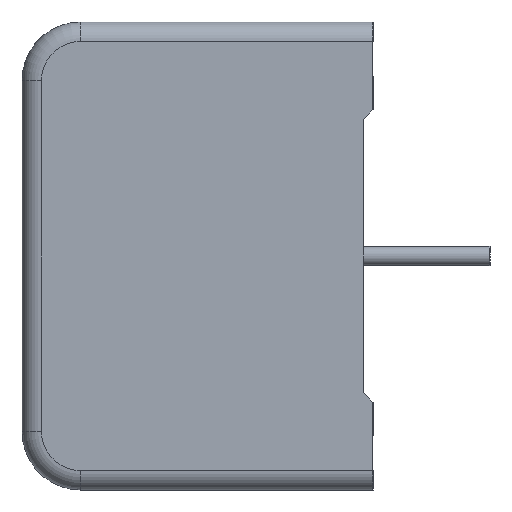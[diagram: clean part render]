
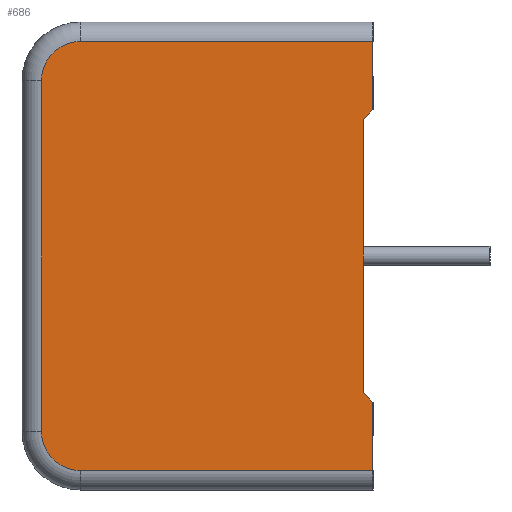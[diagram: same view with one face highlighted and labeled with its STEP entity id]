
A CAD part, left-side view. The second image highlights one B-rep face of the part: STEP entity #686.
In plain terms, the highlighted planar face has unit normal (-1, 0, 0).
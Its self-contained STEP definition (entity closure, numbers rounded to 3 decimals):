
#358 = FACE_OUTER_BOUND ( 'NONE', #2310, .T. ) ;
#416 = DIRECTION ( 'NONE',  ( 0., -0.707, 0.707 ) ) ;
#490 = AXIS2_PLACEMENT_3D ( 'NONE', #1006, #3319, #1399 ) ;
#565 = CIRCLE ( 'NONE', #490, 2. ) ;
#649 = CARTESIAN_POINT ( 'NONE',  ( -21., 0., -12. ) ) ;
#657 = CARTESIAN_POINT ( 'NONE',  ( -21., 0.5, 7. ) ) ;
#686 = ADVANCED_FACE ( 'NONE', ( #358 ), #3828, .F. ) ;
#830 = CARTESIAN_POINT ( 'NONE',  ( -21., 15., 11. ) ) ;
#881 = CARTESIAN_POINT ( 'NONE',  ( -21., 0., -12. ) ) ;
#927 = ORIENTED_EDGE ( 'NONE', *, *, #2495, .T. ) ;
#1001 = ORIENTED_EDGE ( 'NONE', *, *, #3577, .T. ) ;
#1005 = ORIENTED_EDGE ( 'NONE', *, *, #3381, .T. ) ;
#1006 = CARTESIAN_POINT ( 'NONE',  ( -21., 15., -9. ) ) ;
#1021 = LINE ( 'NONE', #2329, #2053 ) ;
#1108 = LINE ( 'NONE', #649, #2973 ) ;
#1122 = VERTEX_POINT ( 'NONE', #2710 ) ;
#1302 = ORIENTED_EDGE ( 'NONE', *, *, #3195, .T. ) ;
#1387 = AXIS2_PLACEMENT_3D ( 'NONE', #2159, #4236, #2509 ) ;
#1399 = DIRECTION ( 'NONE',  ( 0., 0., -1. ) ) ;
#1433 = VERTEX_POINT ( 'NONE', #657 ) ;
#1452 = LINE ( 'NONE', #2067, #3167 ) ;
#1556 = CARTESIAN_POINT ( 'NONE',  ( -21., 18., 11. ) ) ;
#1576 = ORIENTED_EDGE ( 'NONE', *, *, #2999, .T. ) ;
#1585 = CARTESIAN_POINT ( 'NONE',  ( -21., 0., 7.5 ) ) ;
#1717 = VERTEX_POINT ( 'NONE', #1585 ) ;
#1778 = ORIENTED_EDGE ( 'NONE', *, *, #2809, .T. ) ;
#1818 = VERTEX_POINT ( 'NONE', #3215 ) ;
#1865 = VERTEX_POINT ( 'NONE', #830 ) ;
#1871 = ORIENTED_EDGE ( 'NONE', *, *, #2586, .T. ) ;
#1893 = EDGE_CURVE ( 'NONE', #2724, #2643, #3000, .T. ) ;
#1997 = ORIENTED_EDGE ( 'NONE', *, *, #2357, .T. ) ;
#2053 = VECTOR ( 'NONE', #416, 1000. ) ;
#2067 = CARTESIAN_POINT ( 'NONE',  ( -21., 0.5, -7. ) ) ;
#2084 = VECTOR ( 'NONE', #3933, 1000. ) ;
#2117 = EDGE_CURVE ( 'NONE', #2321, #2724, #565, .T. ) ;
#2139 = VERTEX_POINT ( 'NONE', #3591 ) ;
#2152 = ORIENTED_EDGE ( 'NONE', *, *, #2117, .T. ) ;
#2159 = CARTESIAN_POINT ( 'NONE',  ( -21., 15., 9. ) ) ;
#2190 = LINE ( 'NONE', #3659, #2084 ) ;
#2191 = CARTESIAN_POINT ( 'NONE',  ( -21., 15., -11. ) ) ;
#2202 = ORIENTED_EDGE ( 'NONE', *, *, #1893, .T. ) ;
#2247 = AXIS2_PLACEMENT_3D ( 'NONE', #3792, #3789, #3777 ) ;
#2273 = CARTESIAN_POINT ( 'NONE',  ( -21., 18., -11. ) ) ;
#2310 = EDGE_LOOP ( 'NONE', ( #927, #1001, #1005, #1302, #1576, #1778, #1871, #1997, #2152, #2202 ) ) ;
#2321 = VERTEX_POINT ( 'NONE', #2442 ) ;
#2329 = CARTESIAN_POINT ( 'NONE',  ( -21., 0., 7.5 ) ) ;
#2357 = EDGE_CURVE ( 'NONE', #2139, #2321, #2190, .T. ) ;
#2379 = CARTESIAN_POINT ( 'NONE',  ( -21., 0.5, 7. ) ) ;
#2418 = DIRECTION ( 'NONE',  ( 0., 0.707, 0.707 ) ) ;
#2435 = VECTOR ( 'NONE', #3464, 1000. ) ;
#2442 = CARTESIAN_POINT ( 'NONE',  ( -21., 17., -9. ) ) ;
#2485 = LINE ( 'NONE', #1556, #2435 ) ;
#2495 = EDGE_CURVE ( 'NONE', #2643, #3537, #1108, .T. ) ;
#2509 = DIRECTION ( 'NONE',  ( 0., 0., -1. ) ) ;
#2586 = EDGE_CURVE ( 'NONE', #1865, #2139, #3869, .T. ) ;
#2643 = VERTEX_POINT ( 'NONE', #2853 ) ;
#2710 = CARTESIAN_POINT ( 'NONE',  ( -21., 0.5, -7. ) ) ;
#2713 = DIRECTION ( 'NONE',  ( 0., 0., 1. ) ) ;
#2724 = VERTEX_POINT ( 'NONE', #2191 ) ;
#2809 = EDGE_CURVE ( 'NONE', #1818, #1865, #2485, .T. ) ;
#2853 = CARTESIAN_POINT ( 'NONE',  ( -21., 0., -11. ) ) ;
#2973 = VECTOR ( 'NONE', #3945, 1000. ) ;
#2999 = EDGE_CURVE ( 'NONE', #1717, #1818, #4318, .T. ) ;
#3000 = LINE ( 'NONE', #2273, #4332 ) ;
#3124 = VECTOR ( 'NONE', #2713, 1000. ) ;
#3167 = VECTOR ( 'NONE', #2418, 1000. ) ;
#3195 = EDGE_CURVE ( 'NONE', #1433, #1717, #1021, .T. ) ;
#3215 = CARTESIAN_POINT ( 'NONE',  ( -21., 0., 11. ) ) ;
#3268 = DIRECTION ( 'NONE',  ( 0., -1., 0. ) ) ;
#3313 = CARTESIAN_POINT ( 'NONE',  ( -21., 0., -7.5 ) ) ;
#3319 = DIRECTION ( 'NONE',  ( -1., 0., 0. ) ) ;
#3381 = EDGE_CURVE ( 'NONE', #1122, #1433, #3601, .T. ) ;
#3464 = DIRECTION ( 'NONE',  ( 0., 1., 0. ) ) ;
#3526 = DIRECTION ( 'NONE',  ( 0., 0., 1. ) ) ;
#3537 = VERTEX_POINT ( 'NONE', #3313 ) ;
#3577 = EDGE_CURVE ( 'NONE', #3537, #1122, #1452, .T. ) ;
#3591 = CARTESIAN_POINT ( 'NONE',  ( -21., 17., 9. ) ) ;
#3601 = LINE ( 'NONE', #2379, #3124 ) ;
#3659 = CARTESIAN_POINT ( 'NONE',  ( -21., 17., -9. ) ) ;
#3777 = DIRECTION ( 'NONE',  ( 0., 0., -1. ) ) ;
#3789 = DIRECTION ( 'NONE',  ( 1., 0., 0. ) ) ;
#3792 = CARTESIAN_POINT ( 'NONE',  ( -21., 18., -12. ) ) ;
#3828 = PLANE ( 'NONE',  #2247 ) ;
#3869 = CIRCLE ( 'NONE', #1387, 2. ) ;
#3928 = VECTOR ( 'NONE', #3526, 1000. ) ;
#3933 = DIRECTION ( 'NONE',  ( 0., 0., -1. ) ) ;
#3945 = DIRECTION ( 'NONE',  ( 0., 0., 1. ) ) ;
#4236 = DIRECTION ( 'NONE',  ( -1., 0., 0. ) ) ;
#4318 = LINE ( 'NONE', #881, #3928 ) ;
#4332 = VECTOR ( 'NONE', #3268, 1000. ) ;
